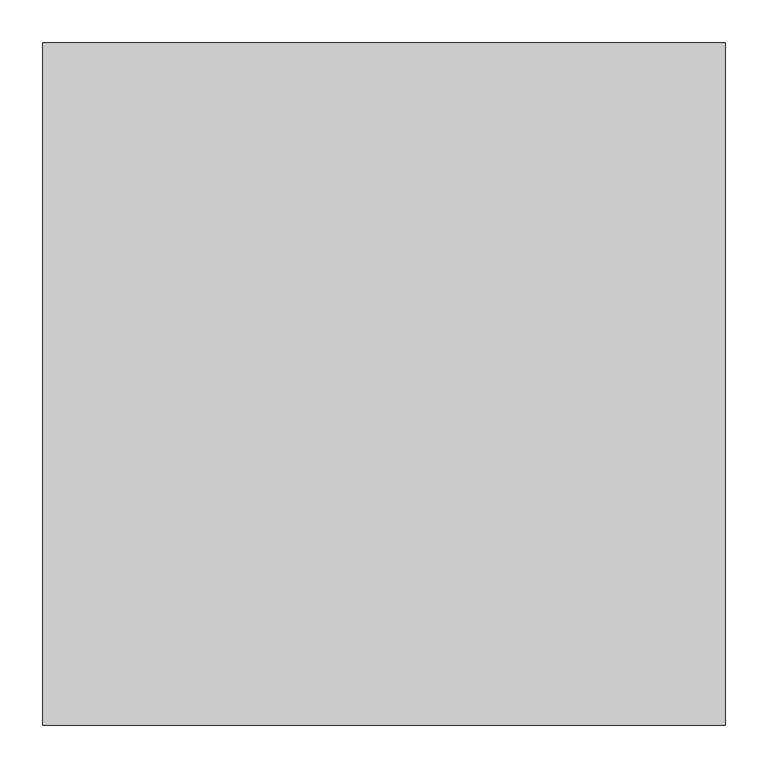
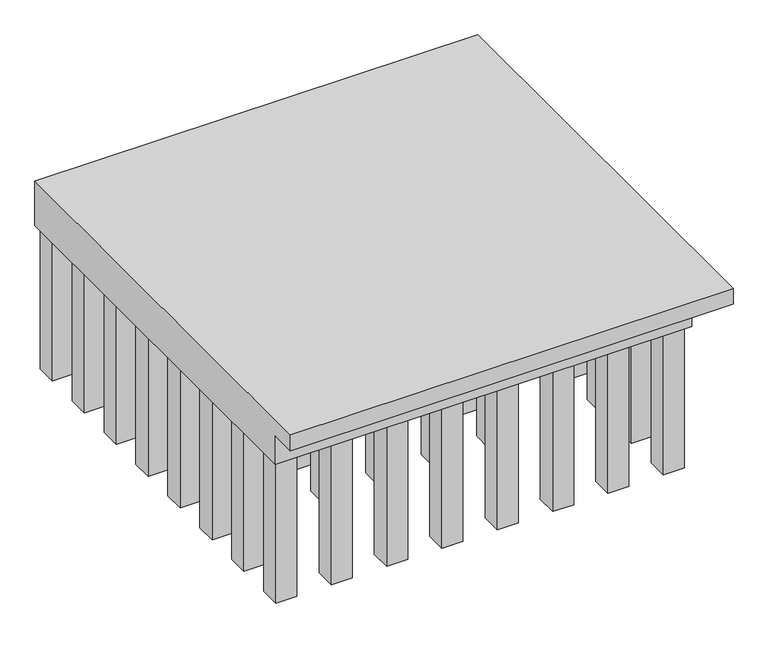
"""IFC4 building model written with IfcOpenShell, lengths in millimetres: proxy geometry, RSK LT Element : RSK LT Element."""

from ifc_helpers import new_model, si_unit, origin, place, context, project, spatial, faceted_brep, source, transform, mapped, element, save


def generic_models_b9a53e04(model_context):
    return source(origin(), model_context, "Body", "Brep", [
        faceted_brep([(0.0, 0.0, 357.5), (800.0, 0.0, 357.5), (800.0, 800.0, 357.5), (0.0, 800.0, 357.5), (800.0, 800.0, 327.5), (800.0, 0.0, 327.5), (0.0, 0.0, 327.5), (0.0, 47.0941274, 327.5), (752.9058726, 47.0941274, 327.5), (752.9058726, 800.0, 327.5), (752.9058726, 800.0, 272.5), (0.0, 800.0, 272.5), (0.0, 47.0941274, 272.5), (752.9058726, 47.0941274, 272.5), (706.0, 756.0, 272.5), (744.0, 756.0, 272.5), (744.0, 794.0, 272.5), (706.0, 794.0, 272.5), (606.0, 756.0, 272.5), (644.0, 756.0, 272.5), (644.0, 794.0, 272.5), (606.0, 794.0, 272.5), (506.0, 756.0, 272.5), (544.0, 756.0, 272.5), (544.0, 794.0, 272.5), (506.0, 794.0, 272.5), (406.0, 756.0, 272.5), (444.0, 756.0, 272.5), (444.0, 794.0, 272.5), (406.0, 794.0, 272.5), (306.0, 756.0, 272.5), (344.0, 756.0, 272.5), (344.0, 794.0, 272.5), (306.0, 794.0, 272.5), (206.0, 756.0, 272.5), (244.0, 756.0, 272.5), (244.0, 794.0, 272.5), (206.0, 794.0, 272.5), (106.0, 756.0, 272.5), (144.0, 756.0, 272.5), (144.0, 794.0, 272.5), (106.0, 794.0, 272.5), (6.0, 756.0, 272.5), (44.0, 756.0, 272.5), (44.0, 794.0, 272.5), (6.0, 794.0, 272.5), (6.0, 656.0, 272.5), (44.0, 656.0, 272.5), (44.0, 694.0, 272.5), (6.0, 694.0, 272.5), (6.0, 556.0, 272.5), (44.0, 556.0, 272.5), (44.0, 594.0, 272.5), (6.0, 594.0, 272.5), (6.0, 456.0, 272.5), (44.0, 456.0, 272.5), (44.0, 494.0, 272.5), (6.0, 494.0, 272.5), (6.0, 356.0, 272.5), (44.0, 356.0, 272.5), (44.0, 394.0, 272.5), (6.0, 394.0, 272.5), (6.0, 256.0, 272.5), (44.0, 256.0, 272.5), (44.0, 294.0, 272.5), (6.0, 294.0, 272.5), (6.0, 156.0, 272.5), (44.0, 156.0, 272.5), (44.0, 194.0, 272.5), (6.0, 194.0, 272.5), (6.0, 56.0, 272.5), (44.0, 56.0, 272.5), (44.0, 94.0, 272.5), (6.0, 94.0, 272.5), (106.0, 56.0, 272.5), (144.0, 56.0, 272.5), (144.0, 94.0, 272.5), (106.0, 94.0, 272.5), (206.0, 256.0, 272.5), (244.0, 256.0, 272.5), (244.0, 294.0, 272.5), (206.0, 294.0, 272.5), (306.0, 256.0, 272.5), (344.0, 256.0, 272.5), (344.0, 294.0, 272.5), (306.0, 294.0, 272.5), (206.0, 356.0, 272.5), (244.0, 356.0, 272.5), (244.0, 394.0, 272.5), (206.0, 394.0, 272.5), (206.0, 456.0, 272.5), (244.0, 456.0, 272.5), (244.0, 494.0, 272.5), (206.0, 494.0, 272.5), (206.0, 556.0, 272.5), (244.0, 556.0, 272.5), (244.0, 594.0, 272.5), (206.0, 594.0, 272.5), (306.0, 556.0, 272.5), (344.0, 556.0, 272.5), (344.0, 594.0, 272.5), (306.0, 594.0, 272.5), (406.0, 556.0, 272.5), (444.0, 556.0, 272.5), (444.0, 594.0, 272.5), (406.0, 594.0, 272.5), (506.0, 556.0, 272.5), (544.0, 556.0, 272.5), (544.0, 594.0, 272.5), (506.0, 594.0, 272.5), (506.0, 456.0, 272.5), (544.0, 456.0, 272.5), (544.0, 494.0, 272.5), (506.0, 494.0, 272.5), (506.0, 356.0, 272.5), (544.0, 356.0, 272.5), (544.0, 394.0, 272.5), (506.0, 394.0, 272.5), (506.0, 256.0, 272.5), (544.0, 256.0, 272.5), (544.0, 294.0, 272.5), (506.0, 294.0, 272.5), (406.0, 256.0, 272.5), (444.0, 256.0, 272.5), (444.0, 294.0, 272.5), (406.0, 294.0, 272.5), (706.0, 656.0, 272.5), (744.0, 656.0, 272.5), (744.0, 694.0, 272.5), (706.0, 694.0, 272.5), (706.0, 556.0, 272.5), (744.0, 556.0, 272.5), (744.0, 594.0, 272.5), (706.0, 594.0, 272.5), (706.0, 456.0, 272.5), (744.0, 456.0, 272.5), (744.0, 494.0, 272.5), (706.0, 494.0, 272.5), (706.0, 356.0, 272.5), (744.0, 356.0, 272.5), (744.0, 394.0, 272.5), (706.0, 394.0, 272.5), (706.0, 256.0, 272.5), (744.0, 256.0, 272.5), (744.0, 294.0, 272.5), (706.0, 294.0, 272.5), (706.0, 156.0, 272.5), (744.0, 156.0, 272.5), (744.0, 194.0, 272.5), (706.0, 194.0, 272.5), (706.0, 56.0, 272.5), (744.0, 56.0, 272.5), (744.0, 94.0, 272.5), (706.0, 94.0, 272.5), (606.0, 56.0, 272.5), (644.0, 56.0, 272.5), (644.0, 94.0, 272.5), (606.0, 94.0, 272.5), (506.0, 56.0, 272.5), (544.0, 56.0, 272.5), (544.0, 94.0, 272.5), (506.0, 94.0, 272.5), (406.0, 56.0, 272.5), (444.0, 56.0, 272.5), (444.0, 94.0, 272.5), (406.0, 94.0, 272.5), (306.0, 56.0, 272.5), (344.0, 56.0, 272.5), (344.0, 94.0, 272.5), (306.0, 94.0, 272.5), (206.0, 56.0, 272.5), (244.0, 56.0, 272.5), (244.0, 94.0, 272.5), (206.0, 94.0, 272.5), (706.0, 756.0, 0.0), (706.0, 794.0, 0.0), (744.0, 794.0, 0.0), (744.0, 756.0, 0.0), (606.0, 756.0, 0.0), (606.0, 794.0, 0.0), (644.0, 794.0, 0.0), (644.0, 756.0, 0.0), (506.0, 756.0, 0.0), (506.0, 794.0, 0.0), (544.0, 794.0, 0.0), (544.0, 756.0, 0.0), (406.0, 756.0, 0.0), (406.0, 794.0, 0.0), (444.0, 794.0, 0.0), (444.0, 756.0, 0.0), (306.0, 756.0, 0.0), (306.0, 794.0, 0.0), (344.0, 794.0, 0.0), (344.0, 756.0, 0.0), (206.0, 756.0, 0.0), (206.0, 794.0, 0.0), (244.0, 794.0, 0.0), (244.0, 756.0, 0.0), (106.0, 756.0, 0.0), (106.0, 794.0, 0.0), (144.0, 794.0, 0.0), (144.0, 756.0, 0.0), (6.0, 756.0, 0.0), (6.0, 794.0, 0.0), (44.0, 794.0, 0.0), (44.0, 756.0, 0.0), (6.0, 656.0, 0.0), (6.0, 694.0, 0.0), (44.0, 694.0, 0.0), (44.0, 656.0, 0.0), (6.0, 556.0, 0.0), (6.0, 594.0, 0.0), (44.0, 594.0, 0.0), (44.0, 556.0, 0.0), (6.0, 456.0, 0.0), (6.0, 494.0, 0.0), (44.0, 494.0, 0.0), (44.0, 456.0, 0.0), (6.0, 356.0, 0.0), (6.0, 394.0, 0.0), (44.0, 394.0, 0.0), (44.0, 356.0, 0.0), (6.0, 256.0, 0.0), (6.0, 294.0, 0.0), (44.0, 294.0, 0.0), (44.0, 256.0, 0.0), (6.0, 156.0, 0.0), (6.0, 194.0, 0.0), (44.0, 194.0, 0.0), (44.0, 156.0, 0.0), (6.0, 56.0, 0.0), (6.0, 94.0, 0.0), (44.0, 94.0, 0.0), (44.0, 56.0, 0.0), (106.0, 56.0, 0.0), (106.0, 94.0, 0.0), (144.0, 94.0, 0.0), (144.0, 56.0, 0.0), (206.0, 256.0, 0.0), (206.0, 294.0, 0.0), (244.0, 294.0, 0.0), (244.0, 256.0, 0.0), (306.0, 256.0, 0.0), (306.0, 294.0, 0.0), (344.0, 294.0, 0.0), (344.0, 256.0, 0.0), (206.0, 356.0, 0.0), (206.0, 394.0, 0.0), (244.0, 394.0, 0.0), (244.0, 356.0, 0.0), (206.0, 456.0, 0.0), (206.0, 494.0, 0.0), (244.0, 494.0, 0.0), (244.0, 456.0, 0.0), (206.0, 556.0, 0.0), (206.0, 594.0, 0.0), (244.0, 594.0, 0.0), (244.0, 556.0, 0.0), (306.0, 556.0, 0.0), (306.0, 594.0, 0.0), (344.0, 594.0, 0.0), (344.0, 556.0, 0.0), (406.0, 556.0, 0.0), (406.0, 594.0, 0.0), (444.0, 594.0, 0.0), (444.0, 556.0, 0.0), (506.0, 556.0, 0.0), (506.0, 594.0, 0.0), (544.0, 594.0, 0.0), (544.0, 556.0, 0.0), (506.0, 456.0, 0.0), (506.0, 494.0, 0.0), (544.0, 494.0, 0.0), (544.0, 456.0, 0.0), (506.0, 356.0, 0.0), (506.0, 394.0, 0.0), (544.0, 394.0, 0.0), (544.0, 356.0, 0.0), (506.0, 256.0, 0.0), (506.0, 294.0, 0.0), (544.0, 294.0, 0.0), (544.0, 256.0, 0.0), (406.0, 256.0, 0.0), (406.0, 294.0, 0.0), (444.0, 294.0, 0.0), (444.0, 256.0, 0.0), (706.0, 656.0, 0.0), (706.0, 694.0, 0.0), (744.0, 694.0, 0.0), (744.0, 656.0, 0.0), (706.0, 556.0, 0.0), (706.0, 594.0, 0.0), (744.0, 594.0, 0.0), (744.0, 556.0, 0.0), (706.0, 456.0, 0.0), (706.0, 494.0, 0.0), (744.0, 494.0, 0.0), (744.0, 456.0, 0.0), (706.0, 356.0, 0.0), (706.0, 394.0, 0.0), (744.0, 394.0, 0.0), (744.0, 356.0, 0.0), (706.0, 256.0, 0.0), (706.0, 294.0, 0.0), (744.0, 294.0, 0.0), (744.0, 256.0, 0.0), (706.0, 156.0, 0.0), (706.0, 194.0, 0.0), (744.0, 194.0, 0.0), (744.0, 156.0, 0.0), (706.0, 56.0, 0.0), (706.0, 94.0, 0.0), (744.0, 94.0, 0.0), (744.0, 56.0, 0.0), (606.0, 56.0, 0.0), (606.0, 94.0, 0.0), (644.0, 94.0, 0.0), (644.0, 56.0, 0.0), (506.0, 56.0, 0.0), (506.0, 94.0, 0.0), (544.0, 94.0, 0.0), (544.0, 56.0, 0.0), (406.0, 56.0, 0.0), (406.0, 94.0, 0.0), (444.0, 94.0, 0.0), (444.0, 56.0, 0.0), (306.0, 56.0, 0.0), (306.0, 94.0, 0.0), (344.0, 94.0, 0.0), (344.0, 56.0, 0.0), (206.0, 56.0, 0.0), (206.0, 94.0, 0.0), (244.0, 94.0, 0.0), (244.0, 56.0, 0.0)], [[[0, 1, 2, 3]], [[4, 5, 6, 7, 8, 9]], [[1, 0, 6, 5]], [[2, 1, 5, 4]], [[3, 2, 4, 9, 10, 11]], [[0, 3, 11, 12, 7, 6]], [[12, 11, 10, 13], [14, 15, 16, 17], [18, 19, 20, 21], [22, 23, 24, 25], [26, 27, 28, 29], [30, 31, 32, 33], [34, 35, 36, 37], [38, 39, 40, 41], [42, 43, 44, 45], [46, 47, 48, 49], [50, 51, 52, 53], [54, 55, 56, 57], [58, 59, 60, 61], [62, 63, 64, 65], [66, 67, 68, 69], [70, 71, 72, 73], [74, 75, 76, 77], [78, 79, 80, 81], [82, 83, 84, 85], [86, 87, 88, 89], [90, 91, 92, 93], [94, 95, 96, 97], [98, 99, 100, 101], [102, 103, 104, 105], [106, 107, 108, 109], [110, 111, 112, 113], [114, 115, 116, 117], [118, 119, 120, 121], [122, 123, 124, 125], [126, 127, 128, 129], [130, 131, 132, 133], [134, 135, 136, 137], [138, 139, 140, 141], [142, 143, 144, 145], [146, 147, 148, 149], [150, 151, 152, 153], [154, 155, 156, 157], [158, 159, 160, 161], [162, 163, 164, 165], [166, 167, 168, 169], [170, 171, 172, 173]], [[12, 13, 8, 7]], [[13, 10, 9, 8]], [[174, 175, 176, 177]], [[174, 177, 15, 14]], [[177, 176, 16, 15]], [[176, 175, 17, 16]], [[175, 174, 14, 17]], [[178, 179, 180, 181]], [[178, 181, 19, 18]], [[181, 180, 20, 19]], [[180, 179, 21, 20]], [[179, 178, 18, 21]], [[182, 183, 184, 185]], [[182, 185, 23, 22]], [[185, 184, 24, 23]], [[184, 183, 25, 24]], [[183, 182, 22, 25]], [[186, 187, 188, 189]], [[186, 189, 27, 26]], [[189, 188, 28, 27]], [[188, 187, 29, 28]], [[187, 186, 26, 29]], [[190, 191, 192, 193]], [[190, 193, 31, 30]], [[193, 192, 32, 31]], [[192, 191, 33, 32]], [[191, 190, 30, 33]], [[194, 195, 196, 197]], [[194, 197, 35, 34]], [[197, 196, 36, 35]], [[196, 195, 37, 36]], [[195, 194, 34, 37]], [[198, 199, 200, 201]], [[198, 201, 39, 38]], [[201, 200, 40, 39]], [[200, 199, 41, 40]], [[199, 198, 38, 41]], [[202, 203, 204, 205]], [[202, 205, 43, 42]], [[205, 204, 44, 43]], [[204, 203, 45, 44]], [[203, 202, 42, 45]], [[206, 207, 208, 209]], [[206, 209, 47, 46]], [[209, 208, 48, 47]], [[208, 207, 49, 48]], [[207, 206, 46, 49]], [[210, 211, 212, 213]], [[210, 213, 51, 50]], [[213, 212, 52, 51]], [[212, 211, 53, 52]], [[211, 210, 50, 53]], [[214, 215, 216, 217]], [[214, 217, 55, 54]], [[217, 216, 56, 55]], [[216, 215, 57, 56]], [[215, 214, 54, 57]], [[218, 219, 220, 221]], [[218, 221, 59, 58]], [[221, 220, 60, 59]], [[220, 219, 61, 60]], [[219, 218, 58, 61]], [[222, 223, 224, 225]], [[222, 225, 63, 62]], [[225, 224, 64, 63]], [[224, 223, 65, 64]], [[223, 222, 62, 65]], [[226, 227, 228, 229]], [[226, 229, 67, 66]], [[229, 228, 68, 67]], [[228, 227, 69, 68]], [[227, 226, 66, 69]], [[230, 231, 232, 233]], [[230, 233, 71, 70]], [[233, 232, 72, 71]], [[232, 231, 73, 72]], [[231, 230, 70, 73]], [[234, 235, 236, 237]], [[234, 237, 75, 74]], [[237, 236, 76, 75]], [[236, 235, 77, 76]], [[235, 234, 74, 77]], [[238, 239, 240, 241]], [[238, 241, 79, 78]], [[241, 240, 80, 79]], [[240, 239, 81, 80]], [[239, 238, 78, 81]], [[242, 243, 244, 245]], [[242, 245, 83, 82]], [[245, 244, 84, 83]], [[244, 243, 85, 84]], [[243, 242, 82, 85]], [[246, 247, 248, 249]], [[246, 249, 87, 86]], [[249, 248, 88, 87]], [[248, 247, 89, 88]], [[247, 246, 86, 89]], [[250, 251, 252, 253]], [[250, 253, 91, 90]], [[253, 252, 92, 91]], [[252, 251, 93, 92]], [[251, 250, 90, 93]], [[254, 255, 256, 257]], [[254, 257, 95, 94]], [[257, 256, 96, 95]], [[256, 255, 97, 96]], [[255, 254, 94, 97]], [[258, 259, 260, 261]], [[258, 261, 99, 98]], [[261, 260, 100, 99]], [[260, 259, 101, 100]], [[259, 258, 98, 101]], [[262, 263, 264, 265]], [[262, 265, 103, 102]], [[265, 264, 104, 103]], [[264, 263, 105, 104]], [[263, 262, 102, 105]], [[266, 267, 268, 269]], [[266, 269, 107, 106]], [[269, 268, 108, 107]], [[268, 267, 109, 108]], [[267, 266, 106, 109]], [[270, 271, 272, 273]], [[270, 273, 111, 110]], [[273, 272, 112, 111]], [[272, 271, 113, 112]], [[271, 270, 110, 113]], [[274, 275, 276, 277]], [[274, 277, 115, 114]], [[277, 276, 116, 115]], [[276, 275, 117, 116]], [[275, 274, 114, 117]], [[278, 279, 280, 281]], [[278, 281, 119, 118]], [[281, 280, 120, 119]], [[280, 279, 121, 120]], [[279, 278, 118, 121]], [[282, 283, 284, 285]], [[282, 285, 123, 122]], [[285, 284, 124, 123]], [[284, 283, 125, 124]], [[283, 282, 122, 125]], [[286, 287, 288, 289]], [[286, 289, 127, 126]], [[289, 288, 128, 127]], [[288, 287, 129, 128]], [[287, 286, 126, 129]], [[290, 291, 292, 293]], [[290, 293, 131, 130]], [[293, 292, 132, 131]], [[292, 291, 133, 132]], [[291, 290, 130, 133]], [[294, 295, 296, 297]], [[294, 297, 135, 134]], [[297, 296, 136, 135]], [[296, 295, 137, 136]], [[295, 294, 134, 137]], [[298, 299, 300, 301]], [[298, 301, 139, 138]], [[301, 300, 140, 139]], [[300, 299, 141, 140]], [[299, 298, 138, 141]], [[302, 303, 304, 305]], [[302, 305, 143, 142]], [[305, 304, 144, 143]], [[304, 303, 145, 144]], [[303, 302, 142, 145]], [[306, 307, 308, 309]], [[306, 309, 147, 146]], [[309, 308, 148, 147]], [[308, 307, 149, 148]], [[307, 306, 146, 149]], [[310, 311, 312, 313]], [[310, 313, 151, 150]], [[313, 312, 152, 151]], [[312, 311, 153, 152]], [[311, 310, 150, 153]], [[314, 315, 316, 317]], [[314, 317, 155, 154]], [[317, 316, 156, 155]], [[316, 315, 157, 156]], [[315, 314, 154, 157]], [[318, 319, 320, 321]], [[318, 321, 159, 158]], [[321, 320, 160, 159]], [[320, 319, 161, 160]], [[319, 318, 158, 161]], [[322, 323, 324, 325]], [[322, 325, 163, 162]], [[325, 324, 164, 163]], [[324, 323, 165, 164]], [[323, 322, 162, 165]], [[326, 327, 328, 329]], [[326, 329, 167, 166]], [[329, 328, 168, 167]], [[328, 327, 169, 168]], [[327, 326, 166, 169]], [[330, 331, 332, 333]], [[330, 333, 171, 170]], [[333, 332, 172, 171]], [[332, 331, 173, 172]], [[331, 330, 170, 173]]]),
    ])


if __name__ == "__main__":
    model = new_model("IFC4")
    model_context = context("Model", 3, world=origin())
    ifc_project = project(units=[si_unit("LENGTHUNIT", "METRE", prefix="MILLI")], contexts=[model_context])
    site = spatial("IfcSite", under=ifc_project)
    building = spatial("IfcBuilding", under=site)
    placement = place(None, origin())
    generic_models_shape = generic_models_b9a53e04(model_context)
    element("IfcBuildingElementProxy", 1, Name="RSK LT Element : RSK LT Element", ObjectType="RSK LT Element : RSK LT Element", at=placement, inside=building, context=model_context, shape_type="MappedRepresentation", body=[
        mapped(generic_models_shape, transform((0.0, 0.0, 0.0), x_axis=(1.0, 0.0, 0.0), y_axis=(0.0, 1.0, 0.0), z_axis=(0.0, 0.0, 1.0))),
    ])
    save(model, "model.ifc")
